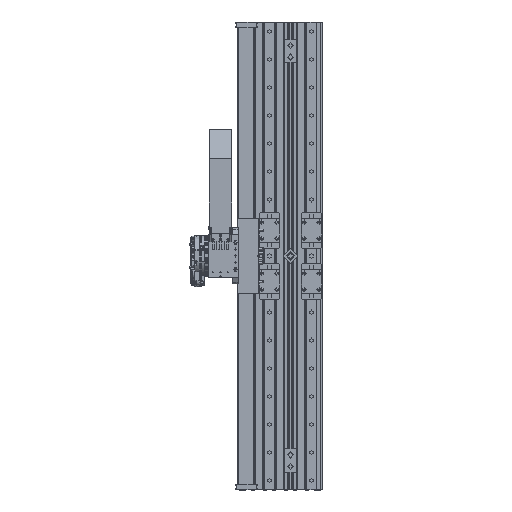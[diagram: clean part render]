
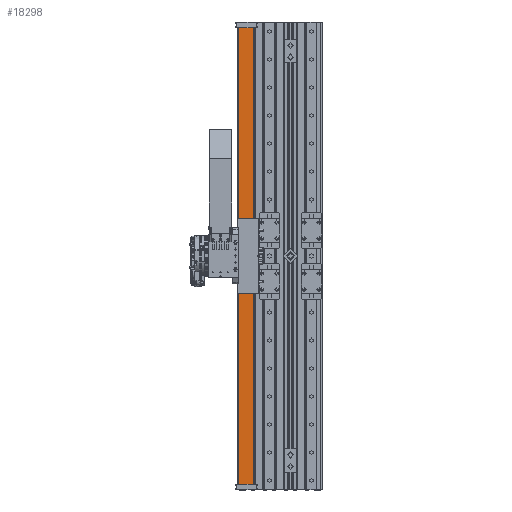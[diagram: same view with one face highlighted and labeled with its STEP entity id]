
A CAD part, top view. The second image highlights one B-rep face of the part: STEP entity #18298.
In plain terms, the highlighted planar face has unit normal (0, 0, 1) as drawn and (0, -1, 0) by its records, which use the part's own axes.
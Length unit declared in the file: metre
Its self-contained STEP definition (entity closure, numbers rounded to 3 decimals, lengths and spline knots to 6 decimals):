
#18298 = ADVANCED_FACE( '', ( #37809 ), #37810, .T. );
#37809 = FACE_OUTER_BOUND( '', #104770, .T. );
#37810 = PLANE( '', #104771 );
#104770 = EDGE_LOOP( '', ( #171335, #171336, #171337, #171338 ) );
#104771 = AXIS2_PLACEMENT_3D( '', #171339, #171340, #171341 );
#171335 = ORIENTED_EDGE( '', *, *, #199746, .T. );
#171336 = ORIENTED_EDGE( '', *, *, #203674, .T. );
#171337 = ORIENTED_EDGE( '', *, *, #191212, .T. );
#171338 = ORIENTED_EDGE( '', *, *, #207458, .T. );
#171339 = CARTESIAN_POINT( '', ( -0.016, -0.001168, -0.499999 ) );
#171340 = DIRECTION( '', ( 0., -1., 0. ) );
#171341 = DIRECTION( '', ( 1., 0., 0. ) );
#191212 = EDGE_CURVE( '', #214447, #214445, #214448, .T. );
#199746 = EDGE_CURVE( '', #228484, #228482, #228485, .T. );
#203674 = EDGE_CURVE( '', #228482, #214447, #234149, .T. );
#207458 = EDGE_CURVE( '', #214445, #228484, #239010, .T. );
#214445 = VERTEX_POINT( '', #250649 );
#214447 = VERTEX_POINT( '', #250652 );
#214448 = LINE( '', #250653, #250654 );
#228482 = VERTEX_POINT( '', #287991 );
#228484 = VERTEX_POINT( '', #287994 );
#228485 = LINE( '', #287995, #287996 );
#234149 = LINE( '', #303003, #303004 );
#239010 = LINE( '', #317740, #317741 );
#250649 = CARTESIAN_POINT( '', ( 0.016, -0.001168, 0.499999 ) );
#250652 = CARTESIAN_POINT( '', ( 0.016, -0.001168, -0.499999 ) );
#250653 = CARTESIAN_POINT( '', ( 0.016, -0.001168, 0.499999 ) );
#250654 = VECTOR( '', #331479, 1. );
#287991 = CARTESIAN_POINT( '', ( -0.016, -0.001168, -0.499999 ) );
#287994 = CARTESIAN_POINT( '', ( -0.016, -0.001168, 0.499999 ) );
#287995 = CARTESIAN_POINT( '', ( -0.016, -0.001168, 0.499999 ) );
#287996 = VECTOR( '', #342681, 1. );
#303003 = CARTESIAN_POINT( '', ( -0.016, -0.001168, -0.499999 ) );
#303004 = VECTOR( '', #347677, 1. );
#317740 = CARTESIAN_POINT( '', ( -0.016, -0.001168, 0.499999 ) );
#317741 = VECTOR( '', #351655, 1. );
#331479 = DIRECTION( '', ( 0., 0., 1. ) );
#342681 = DIRECTION( '', ( 0., 0., -1. ) );
#347677 = DIRECTION( '', ( 1., 0., 0. ) );
#351655 = DIRECTION( '', ( -1., 0., 0. ) );
